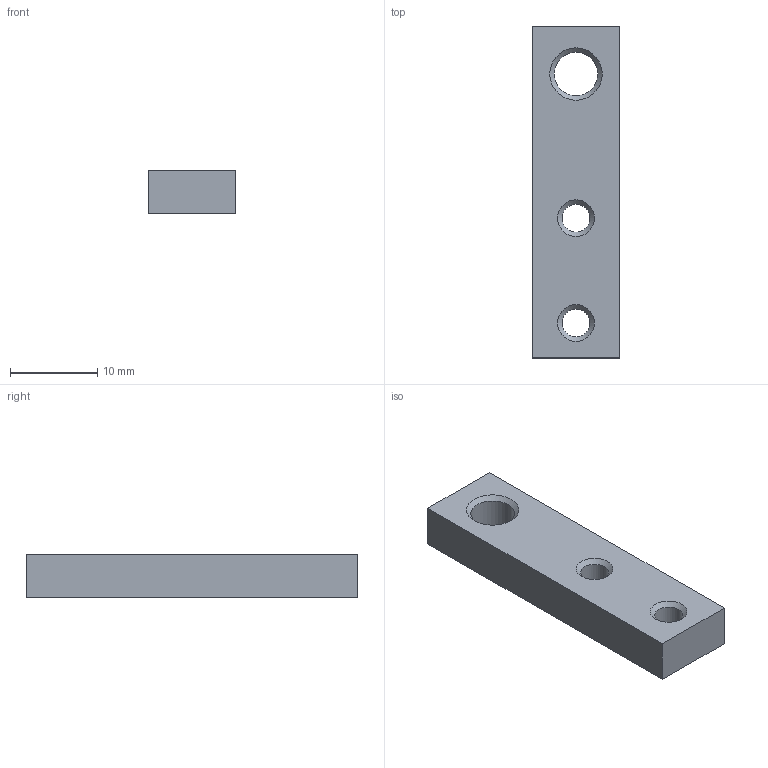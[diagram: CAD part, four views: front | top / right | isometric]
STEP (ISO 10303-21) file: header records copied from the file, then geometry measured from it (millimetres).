
FILE_DESCRIPTION(/* description */ (''),/* implementation_level */ '2;1');
FILE_NAME(/* name */ 'SYSTEM_SUPPORT_33.stp',/* time_stamp */ '2017-12-06T14:33:28+01:00',/* author */ (''),/* organization */ (''),/* preprocessor_version */ 'ST-DEVELOPER v16',/* originating_system */ 'SIEMENS PLM Software NX 10.0',/* authorisation */ '');
FILE_SCHEMA (('AP203_CONFIGURATION_CONTROLLED_3D_DESIGN_OF_MECHANICAL_PARTS_AND_ASSEMBLIES_MIM_LF { 1 0 10303 403 2 1 2}'));
Length unit declared in the file: millimetre
Products named in the file (1): turc1DB80072j4m4
Bounding box: 10 x 38 x 5 mm (x, y, z)
Volume: 1711.7 mm3; surface area: 1328.6 mm2
Topology: 1 solids, 1 shells, 15 faces, 36 edges, 23 vertices
Faces by surface type: plane 6, cone 6, cylinder 3
Full cylindrical faces by diameter (mm): 3.2 x2, 5 x1
Entity records: 470 total; most frequent: DIRECTION 68, CARTESIAN_POINT 60, ORIENTED_EDGE 48, EDGE_LOOP 30, AXIS2_PLACEMENT_3D 28, FACE_BOUND 26, EDGE_CURVE 24, VERTEX_POINT 20
